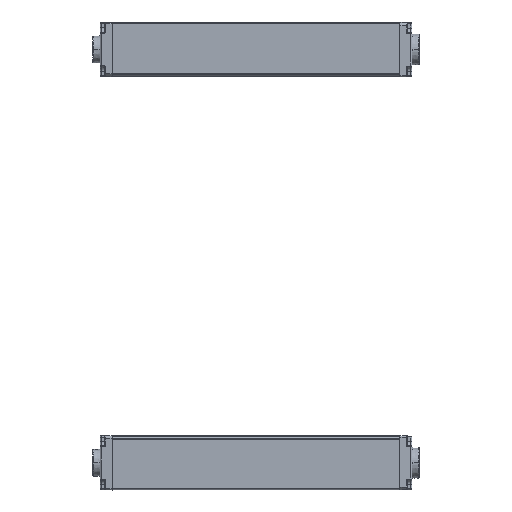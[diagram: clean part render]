
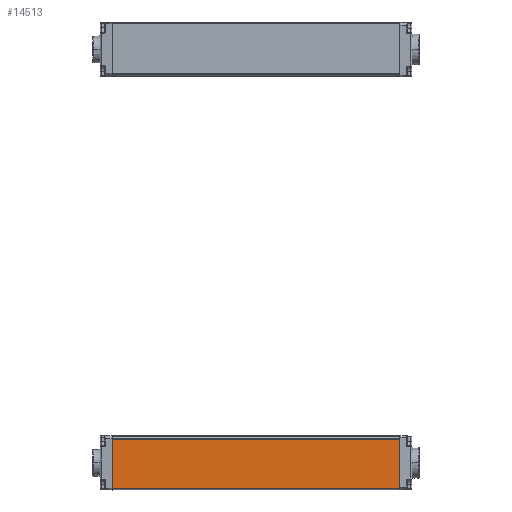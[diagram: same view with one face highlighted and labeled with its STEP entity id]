
A CAD part, left-side view. The second image highlights one B-rep face of the part: STEP entity #14513.
In plain terms, the highlighted planar face has unit normal (-1, 0, -0.009) as drawn and (1, 0, 0) by its records, which use the part's own axes.
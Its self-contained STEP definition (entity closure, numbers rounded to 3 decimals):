
#276 = FACE_OUTER_BOUND ( 'NONE', #3607, .T. ) ;
#1156 = VERTEX_POINT ( 'NONE', #13047 ) ;
#1361 = CARTESIAN_POINT ( 'NONE',  ( 15., 0., 10.9 ) ) ;
#1719 = LINE ( 'NONE', #7269, #10255 ) ;
#1831 = LINE ( 'NONE', #7391, #7985 ) ;
#2135 = VECTOR ( 'NONE', #16106, 1000. ) ;
#2302 = DIRECTION ( 'NONE',  ( 0., 0., -1. ) ) ;
#3607 = EDGE_LOOP ( 'NONE', ( #9056, #17879, #10494, #11519 ) ) ;
#4481 = DIRECTION ( 'NONE',  ( 0., 0., 1. ) ) ;
#5017 = LINE ( 'NONE', #10567, #2135 ) ;
#5833 = PLANE ( 'NONE',  #12575 ) ;
#5942 = EDGE_CURVE ( 'NONE', #1156, #7890, #1831, .T. ) ;
#7269 = CARTESIAN_POINT ( 'NONE',  ( 15., 160., -16.693 ) ) ;
#7391 = CARTESIAN_POINT ( 'NONE',  ( 15., 160., 10.9 ) ) ;
#7890 = VERTEX_POINT ( 'NONE', #1361 ) ;
#7985 = VECTOR ( 'NONE', #12929, 1000. ) ;
#8234 = VERTEX_POINT ( 'NONE', #12317 ) ;
#9056 = ORIENTED_EDGE ( 'NONE', *, *, #11040, .T. ) ;
#10255 = VECTOR ( 'NONE', #12811, 1000. ) ;
#10494 = ORIENTED_EDGE ( 'NONE', *, *, #12994, .F. ) ;
#10567 = CARTESIAN_POINT ( 'NONE',  ( 15., 0., -16.9 ) ) ;
#10586 = LINE ( 'NONE', #14764, #17295 ) ;
#11040 = EDGE_CURVE ( 'NONE', #7890, #8234, #5017, .T. ) ;
#11383 = CARTESIAN_POINT ( 'NONE',  ( 15., 160., -16.9 ) ) ;
#11519 = ORIENTED_EDGE ( 'NONE', *, *, #5942, .T. ) ;
#12317 = CARTESIAN_POINT ( 'NONE',  ( 15., 0., -16.693 ) ) ;
#12575 = AXIS2_PLACEMENT_3D ( 'NONE', #11383, #16937, #4481 ) ;
#12811 = DIRECTION ( 'NONE',  ( 0., 1., 0. ) ) ;
#12929 = DIRECTION ( 'NONE',  ( 0., -1., 0. ) ) ;
#12994 = EDGE_CURVE ( 'NONE', #1156, #13712, #10586, .T. ) ;
#13047 = CARTESIAN_POINT ( 'NONE',  ( 15., 160., 10.9 ) ) ;
#13712 = VERTEX_POINT ( 'NONE', #14091 ) ;
#14091 = CARTESIAN_POINT ( 'NONE',  ( 15., 160., -16.693 ) ) ;
#14513 = ADVANCED_FACE ( 'NONE', ( #276 ), #5833, .F. ) ;
#14764 = CARTESIAN_POINT ( 'NONE',  ( 15., 160., -16.9 ) ) ;
#14985 = EDGE_CURVE ( 'NONE', #8234, #13712, #1719, .T. ) ;
#16106 = DIRECTION ( 'NONE',  ( 0., 0., -1. ) ) ;
#16937 = DIRECTION ( 'NONE',  ( -1., 0., 0. ) ) ;
#17295 = VECTOR ( 'NONE', #2302, 1000. ) ;
#17879 = ORIENTED_EDGE ( 'NONE', *, *, #14985, .T. ) ;
